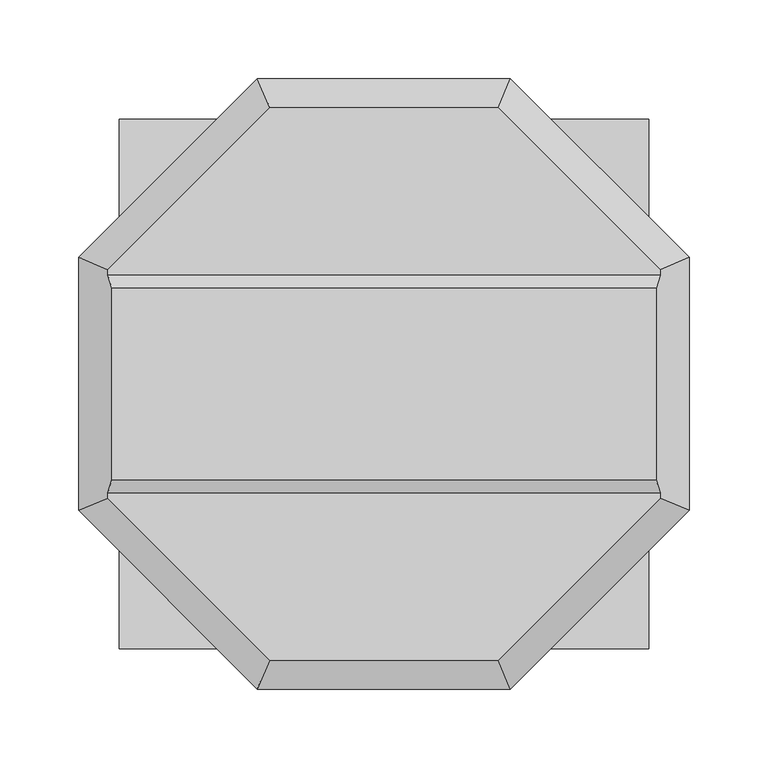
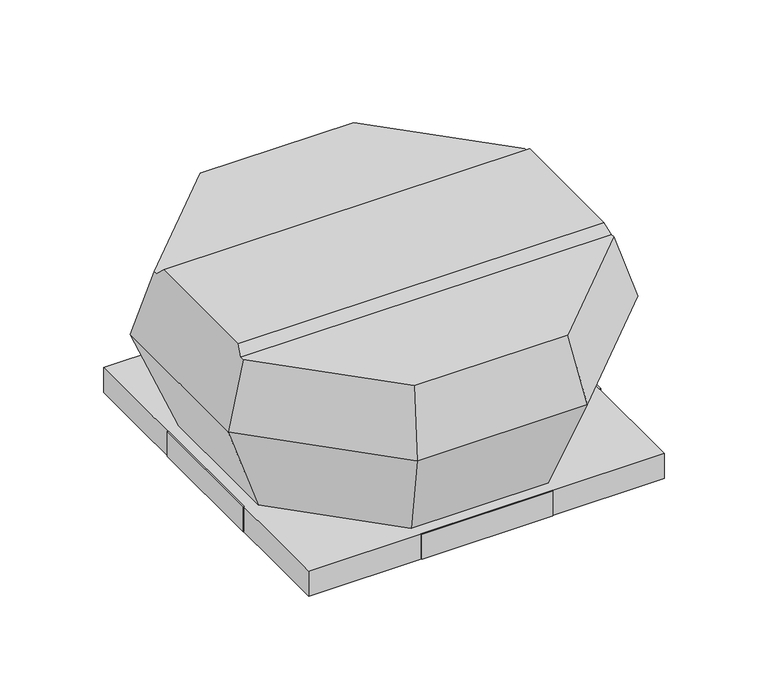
"""IFC4 building model written with IfcOpenShell, lengths in millimetres: unitary equipment geometry, VE-Wentylator-ParaForma-Harmann-VIVO-Wywiewny : 2-220/900S."""

from ifc_helpers import new_model, si_unit, origin, place, context, project, spatial, faceted_brep, source, transform, mapped, element, save


def unitary_equipment_8d29995f(model_context):
    return source(origin(), model_context, "Body", "Brep", [
        faceted_brep([(173.3023939, -61.0, 166.2), (173.3023939, 61.0, 166.2), (-173.3023939, 61.0, 166.2), (-173.3023939, -61.0, 166.2), (175.7547473, 69.1, 158.1), (-175.7547473, 69.1, 158.1), (175.7547473, -69.1, 158.1), (-175.7547473, -69.1, 158.1), (72.8, -175.7547473, 158.1), (175.7547473, -72.8, 158.1), (-175.7547473, -72.8, 158.1), (-72.8, -175.7547473, 158.1), (175.7547473, 72.8, 158.1), (72.8, 175.7547473, 158.1), (-72.8, 175.7547473, 158.1), (-175.7547473, 72.8, 158.1), (80.5, -194.3441918, 96.7), (194.3441918, -80.5, 96.7), (194.3441918, 80.5, 96.7), (80.5, 194.3441918, 96.7), (-80.5, 194.3441918, 96.7), (-194.3441918, 80.5, 96.7), (-194.3441918, -80.5, 96.7), (-80.5, -194.3441918, 96.7), (65.05, -157.0445922, 1.0), (-65.05, -157.0445922, 1.0), (-157.0445922, -65.05, 1.0), (-157.0445922, 65.05, 1.0), (-65.05, 157.0445922, 1.0), (65.05, 157.0445922, 1.0), (157.0445922, 65.05, 1.0), (157.0445922, -65.05, 1.0)], [[[0, 1, 2, 3]], [[1, 4, 5, 2]], [[6, 0, 3, 7]], [[8, 9, 6, 7, 10, 11]], [[12, 13, 14, 15, 5, 4]], [[9, 8, 16, 17]], [[9, 17, 18, 12, 4, 1, 0, 6]], [[13, 12, 18, 19]], [[14, 13, 19, 20]], [[15, 14, 20, 21]], [[15, 21, 22, 10, 7, 3, 2, 5]], [[11, 10, 22, 23]], [[8, 11, 23, 16]], [[24, 25, 26, 27, 28, 29, 30, 31]], [[24, 31, 17, 16]], [[31, 30, 18, 17]], [[30, 29, 19, 18]], [[29, 28, 20, 19]], [[28, 27, 21, 20]], [[27, 26, 22, 21]], [[26, 25, 23, 22]], [[25, 24, 16, 23]]]),
        faceted_brep([(167.5, 167.5, -24.0), (167.5, 167.5, 0.0), (-167.5, 167.5, 0.0), (-167.5, 167.5, -24.0), (168.5, 168.5, 1.0), (168.5, 168.5, -24.0), (-168.5, 168.5, -24.0), (-168.5, 168.5, 1.0), (-167.5, -167.5, 0.0), (-167.5, -167.5, -24.0), (-168.5, -168.5, -24.0), (-168.5, -168.5, 1.0), (167.5, -167.5, 0.0), (167.5, -167.5, -24.0), (168.5, -168.5, -24.0), (168.5, -168.5, 1.0)], [[[0, 1, 2, 3]], [[4, 5, 6, 7]], [[3, 2, 8, 9]], [[7, 6, 10, 11]], [[9, 8, 12, 13]], [[11, 10, 14, 15]], [[13, 12, 1, 0]], [[5, 14, 10, 6], [3, 9, 13, 0]], [[15, 14, 5, 4]], [[7, 11, 15, 4]], [[1, 12, 8, 2]]]),
        faceted_brep([(-168.5, -62.2, -23.5), (-169.5, -62.2, -23.5), (-169.5, 62.2, -23.5), (-168.5, 62.2, -23.5), (-168.5, -62.2, 1.5), (-168.5, 62.2, 1.5), (-169.5, 62.2, 1.5), (-169.5, -62.2, 1.5)], [[[0, 1, 2, 3]], [[4, 5, 6, 7]], [[1, 0, 4, 7]], [[2, 1, 7, 6]], [[3, 2, 6, 5]], [[0, 3, 5, 4]]]),
        faceted_brep([(169.5, -62.2, -23.5), (168.5, -62.2, -23.5), (168.5, 62.2, -23.5), (169.5, 62.2, -23.5), (169.5, 62.2, 1.5), (168.5, 62.2, 1.5), (168.5, 5.0, 1.5), (168.5, -5.0, 1.5), (168.5, -62.2, 1.5), (169.5, -62.2, 1.5), (169.5, -5.0, 1.5), (169.5, 5.0, 1.5)], [[[0, 1, 2, 3]], [[4, 5, 6, 7, 8, 9, 10, 11]], [[1, 0, 9, 8]], [[2, 1, 8, 7, 6, 5]], [[3, 2, 5, 4]], [[0, 3, 4, 11, 10, 9]]]),
        faceted_brep([(62.2, 168.5, -23.5), (-62.2, 168.5, -23.5), (-62.2, 169.5, -23.5), (62.2, 169.5, -23.5), (62.2, 168.5, 1.5), (62.2, 169.5, 1.5), (-62.2, 169.5, 1.5), (-62.2, 168.5, 1.5)], [[[0, 1, 2, 3]], [[4, 5, 6, 7]], [[1, 0, 4, 7]], [[2, 1, 7, 6]], [[3, 2, 6, 5]], [[0, 3, 5, 4]]]),
        faceted_brep([(62.2, -169.5, -23.5), (-62.2, -169.5, -23.5), (-62.2, -168.5, -23.5), (62.2, -168.5, -23.5), (62.2, -169.5, 1.5), (62.2, -168.5, 1.5), (-62.2, -168.5, 1.5), (-62.2, -169.5, 1.5)], [[[0, 1, 2, 3]], [[4, 5, 6, 7]], [[1, 0, 4, 7]], [[2, 1, 7, 6]], [[3, 2, 6, 5]], [[0, 3, 5, 4]]]),
    ])


if __name__ == "__main__":
    model = new_model("IFC4")
    model_context = context("Model", 3, world=origin())
    ifc_project = project(units=[si_unit("LENGTHUNIT", "METRE", prefix="MILLI")], contexts=[model_context])
    site = spatial("IfcSite", under=ifc_project)
    building = spatial("IfcBuilding", under=site)
    placement = place(None, origin())
    unitary_equipment_shape = unitary_equipment_8d29995f(model_context)
    element("IfcUnitaryEquipment", 1, ObjectType="VE-Wentylator-ParaForma-Harmann-VIVO-Wywiewny : 2-220/900S", at=placement, inside=building, context=model_context, shape_type="MappedRepresentation", body=[
        mapped(unitary_equipment_shape, transform((0.0, 0.0, 0.0), x_axis=(1.0, 0.0, 0.0), y_axis=(0.0, 1.0, 0.0), z_axis=(0.0, 0.0, 1.0))),
    ])
    save(model, "model.ifc")
